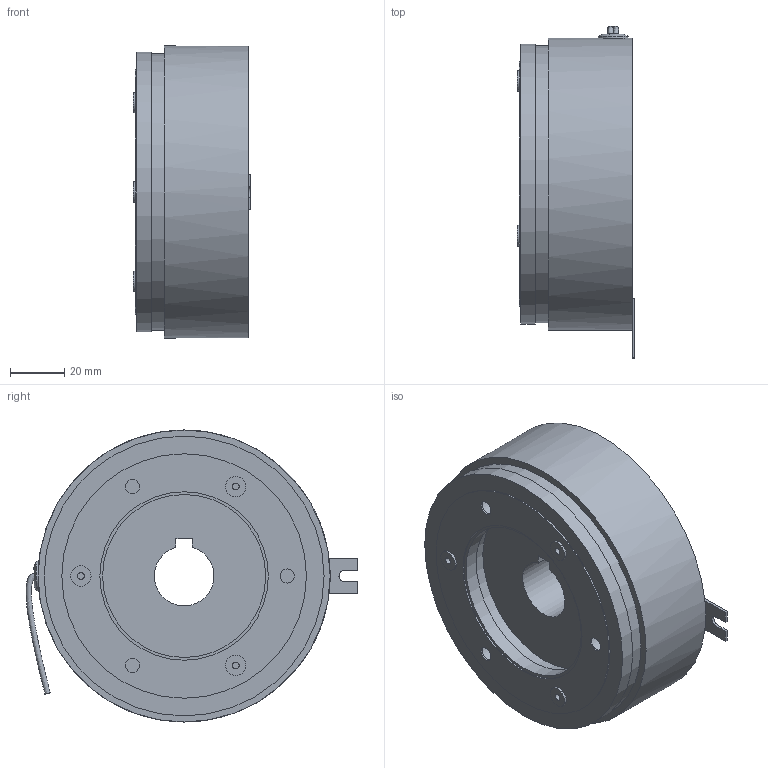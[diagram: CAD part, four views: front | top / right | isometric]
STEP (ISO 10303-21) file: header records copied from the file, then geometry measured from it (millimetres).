
FILE_DESCRIPTION(/* description */ (''),/* implementation_level */ '2;1');
FILE_NAME(/* name */ '\\Srv-tecnico\DATI\UFFICIO TECNICO\ARCHIVIO INVENTOR\DISEGNI\UFFICIO TECNICO\08_Freni_Friz_Elettromagnetici_Monodisco\08_25 EMSL\08_25_100_01 EMSL100\08.25.100.01 EMSL100@STEP.stp',/* time_stamp */ '2015-05-27T13:56:52+02:00',/* author */ ('stefano'),/* organization */ (''),/* preprocessor_version */ 'ST-DEVELOPER v15.6',/* originating_system */ 'Autodesk Inventor 2015',/* authorisation */ '');
FILE_SCHEMA (('AUTOMOTIVE_DESIGN { 1 0 10303 214 3 1 1 }'));
Length unit declared in the file: millimetre
Products named in the file (1): 08.25.100.01 EMSL100_Substitute_1
Bounding box: 43.4 x 122.19 x 107.5 mm (x, y, z)
Volume: 263037.7 mm3; surface area: 86280 mm2
Topology: 3 solids, 3 shells, 264 faces, 687 edges, 428 vertices
Faces by surface type: plane 87, cylinder 84, torus 59, bspline 15, cone 10, sphere 9
Full cylindrical faces by diameter (mm): 2.5 x7, 4 x1, 5.2 x6, 7.5 x3, 11 x1, 11.5 x3, 33 x1, 35 x2, 43.64 x2, 45 x1, 53.36 x2, 55 x1, 60 x1, 62 x3, 63.5 x1, 65 x1, 72 x1, 72.2 x1, 77.5 x1, 90 x1, 93.5 x1, 102 x1, 102.2 x1, 103 x1, 107.5 x1
Entity records: 9817 total; most frequent: CARTESIAN_POINT 3663, DIRECTION 1319, ORIENTED_EDGE 1164, AXIS2_PLACEMENT_3D 601, EDGE_CURVE 577, VERTEX_POINT 387, EDGE_LOOP 384, CIRCLE 351
